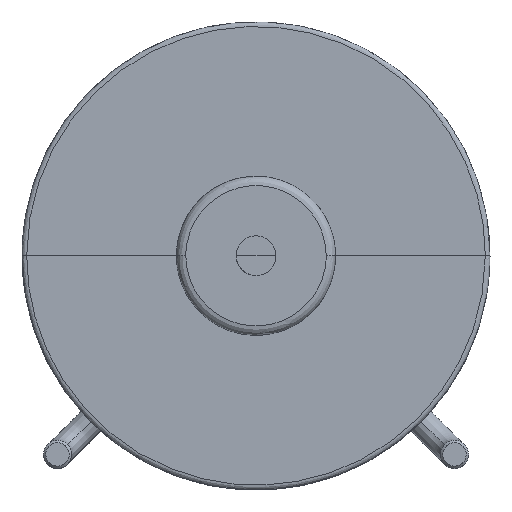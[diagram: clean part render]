
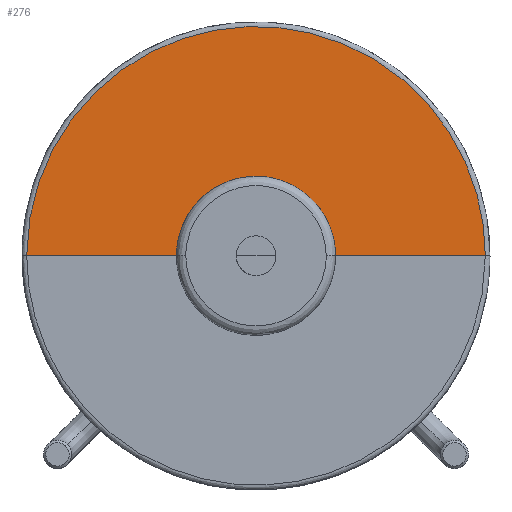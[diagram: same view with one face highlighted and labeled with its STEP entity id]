
A CAD part, top view. The second image highlights one B-rep face of the part: STEP entity #276.
In plain terms, the highlighted free-form (B-spline) face has degree [1, 2] with [2, 5] control points.
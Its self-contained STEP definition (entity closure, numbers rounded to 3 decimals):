
#276=ADVANCED_FACE($,(#509),#2701,.T.);
#509=FACE_OUTER_BOUND($,#760,.T.);
#760=EDGE_LOOP($,(#1447,#1448,#1449,#1450));
#1447=ORIENTED_EDGE($,*,*,#2125,.F.);
#1448=ORIENTED_EDGE($,*,*,#2126,.T.);
#1449=ORIENTED_EDGE($,*,*,#2157,.F.);
#1450=ORIENTED_EDGE($,*,*,#2155,.F.);
#2125=EDGE_CURVE($,#2484,#2499,#10085,.T.);
#2126=EDGE_CURVE($,#2484,#2491,#2957,.T.);
#2155=EDGE_CURVE($,#2499,#2500,#2971,.T.);
#2157=EDGE_CURVE($,#2500,#2491,#2972,.T.);
#2484=VERTEX_POINT($,#7623);
#2491=VERTEX_POINT($,#7630);
#2499=VERTEX_POINT($,#7638);
#2500=VERTEX_POINT($,#7639);
#2701=(
BOUNDED_SURFACE()
B_SPLINE_SURFACE(1,2,((#7186,#7187,#7188,#7189,#7190),(#7191,#7192,#7193,
#7194,#7195)),.UNSPECIFIED.,.F.,.F.,.F.)
B_SPLINE_SURFACE_WITH_KNOTS((2,2),(3,2,3),(0.,32.5),(0.,1.571,
3.142),.UNSPECIFIED.)
GEOMETRIC_REPRESENTATION_ITEM()
RATIONAL_B_SPLINE_SURFACE(((1.,0.707,1.,0.707,1.),
(1.,0.707,1.,0.707,1.)))
REPRESENTATION_ITEM($)
SURFACE()
);
#2957=B_SPLINE_CURVE_WITH_KNOTS($,1,(#6912,#6913),.UNSPECIFIED.,.F.,.F.,
(2,2),(0.,32.5),.UNSPECIFIED.);
#2971=B_SPLINE_CURVE_WITH_KNOTS($,1,(#7045,#7046),.UNSPECIFIED.,.F.,.F.,
(2,2),(0.,32.5),.UNSPECIFIED.);
#2972=B_SPLINE_CURVE_WITH_KNOTS($,3,(#7052,#7053,#7054,#7055,#7056,#7057,
#7058,#7059,#7060,#7061,#7062),.UNSPECIFIED.,.F.,.F.,(4,1,1,1,1,1,1,1,4),
(51.836,58.316,64.795,71.275,77.754,
84.234,90.713,97.193,103.672),.UNSPECIFIED.);
#6907=CARTESIAN_POINT($,(-15.45,-64.236,54.));
#6908=CARTESIAN_POINT($,(-15.45,-15.236,54.));
#6909=CARTESIAN_POINT($,(33.55,-15.236,54.));
#6910=CARTESIAN_POINT($,(82.55,-15.236,54.));
#6911=CARTESIAN_POINT($,(82.55,-64.236,54.));
#6912=CARTESIAN_POINT($,(-15.45,-64.236,54.));
#6913=CARTESIAN_POINT($,(17.05,-64.236,54.));
#7045=CARTESIAN_POINT($,(82.55,-64.236,54.));
#7046=CARTESIAN_POINT($,(50.05,-64.236,54.));
#7052=CARTESIAN_POINT($,(50.05,-64.236,54.));
#7053=CARTESIAN_POINT($,(50.05,-62.076,54.));
#7054=CARTESIAN_POINT($,(49.191,-57.757,54.));
#7055=CARTESIAN_POINT($,(45.521,-52.264,54.));
#7056=CARTESIAN_POINT($,(40.028,-48.595,54.));
#7057=CARTESIAN_POINT($,(33.549,-47.306,54.));
#7058=CARTESIAN_POINT($,(27.071,-48.595,54.));
#7059=CARTESIAN_POINT($,(21.578,-52.264,54.));
#7060=CARTESIAN_POINT($,(17.909,-57.757,54.));
#7061=CARTESIAN_POINT($,(17.048,-62.076,54.));
#7062=CARTESIAN_POINT($,(17.05,-64.236,54.));
#7186=CARTESIAN_POINT($,(-15.45,-64.236,54.));
#7187=CARTESIAN_POINT($,(-15.45,-15.236,54.));
#7188=CARTESIAN_POINT($,(33.55,-15.236,54.));
#7189=CARTESIAN_POINT($,(82.55,-15.236,54.));
#7190=CARTESIAN_POINT($,(82.55,-64.236,54.));
#7191=CARTESIAN_POINT($,(17.05,-64.236,54.));
#7192=CARTESIAN_POINT($,(17.05,-47.736,54.));
#7193=CARTESIAN_POINT($,(33.55,-47.736,54.));
#7194=CARTESIAN_POINT($,(50.05,-47.736,54.));
#7195=CARTESIAN_POINT($,(50.05,-64.236,54.));
#7623=CARTESIAN_POINT($,(-15.45,-64.236,54.));
#7630=CARTESIAN_POINT($,(17.05,-64.236,54.));
#7638=CARTESIAN_POINT($,(82.55,-64.236,54.));
#7639=CARTESIAN_POINT($,(50.05,-64.236,54.));
#10085=(
BOUNDED_CURVE()
B_SPLINE_CURVE(2,(#6907,#6908,#6909,#6910,#6911),.UNSPECIFIED.,.F.,.F.)
B_SPLINE_CURVE_WITH_KNOTS((3,2,3),(0.,1.571,3.142),
.UNSPECIFIED.)
CURVE()
GEOMETRIC_REPRESENTATION_ITEM()
RATIONAL_B_SPLINE_CURVE((1.,0.707,1.,0.707,1.))
REPRESENTATION_ITEM($)
);
